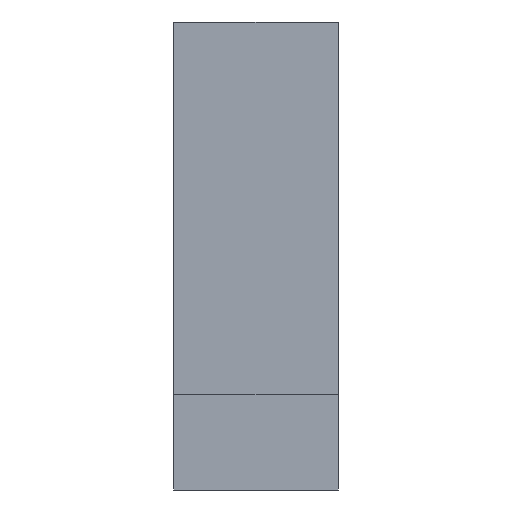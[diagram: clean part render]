
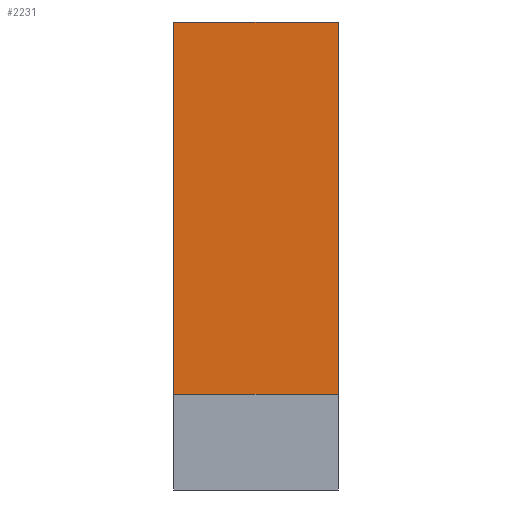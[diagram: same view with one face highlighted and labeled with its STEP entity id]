
A CAD part, left-side view. The second image highlights one B-rep face of the part: STEP entity #2231.
In plain terms, the highlighted planar face has unit normal (-1, 0, 0).
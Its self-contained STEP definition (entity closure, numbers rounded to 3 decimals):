
#444=FACE_OUTER_BOUND('',#597,.T.);
#597=EDGE_LOOP('',(#1921,#1922,#1923,#1924));
#722=LINE('',#3860,#863);
#735=LINE('',#3892,#876);
#749=LINE('',#3956,#890);
#751=LINE('',#3960,#892);
#863=VECTOR('',#3152,10.);
#876=VECTOR('',#3179,10.);
#890=VECTOR('',#3249,10.);
#892=VECTOR('',#3255,10.);
#1045=VERTEX_POINT('',#3857);
#1046=VERTEX_POINT('',#3859);
#1057=VERTEX_POINT('',#3889);
#1058=VERTEX_POINT('',#3891);
#1325=EDGE_CURVE('',#1046,#1045,#722,.T.);
#1341=EDGE_CURVE('',#1057,#1058,#735,.T.);
#1372=EDGE_CURVE('',#1046,#1057,#749,.T.);
#1374=EDGE_CURVE('',#1058,#1045,#751,.T.);
#1921=ORIENTED_EDGE('',*,*,#1325,.T.);
#1922=ORIENTED_EDGE('',*,*,#1374,.F.);
#1923=ORIENTED_EDGE('',*,*,#1341,.F.);
#1924=ORIENTED_EDGE('',*,*,#1372,.F.);
#2133=PLANE('',#2632);
#2231=ADVANCED_FACE('',(#444),#2133,.T.);
#2632=AXIS2_PLACEMENT_3D('',#3959,#3253,#3254);
#3152=DIRECTION('',(0.,1.,0.));
#3179=DIRECTION('',(0.,1.,0.));
#3249=DIRECTION('',(0.,0.,-1.));
#3253=DIRECTION('center_axis',(-1.,0.,0.));
#3254=DIRECTION('ref_axis',(0.,0.,1.));
#3255=DIRECTION('',(0.,0.,1.));
#3857=CARTESIAN_POINT('',(-12.5,12.5,56.5));
#3859=CARTESIAN_POINT('',(-12.5,-12.5,56.5));
#3860=CARTESIAN_POINT('',(-12.5,0.,56.5));
#3889=CARTESIAN_POINT('',(-12.5,-12.5,0.));
#3891=CARTESIAN_POINT('',(-12.5,12.5,0.));
#3892=CARTESIAN_POINT('',(-12.5,0.,0.));
#3956=CARTESIAN_POINT('',(-12.5,-12.5,0.));
#3959=CARTESIAN_POINT('Origin',(-12.5,0.,0.));
#3960=CARTESIAN_POINT('',(-12.5,12.5,0.));
